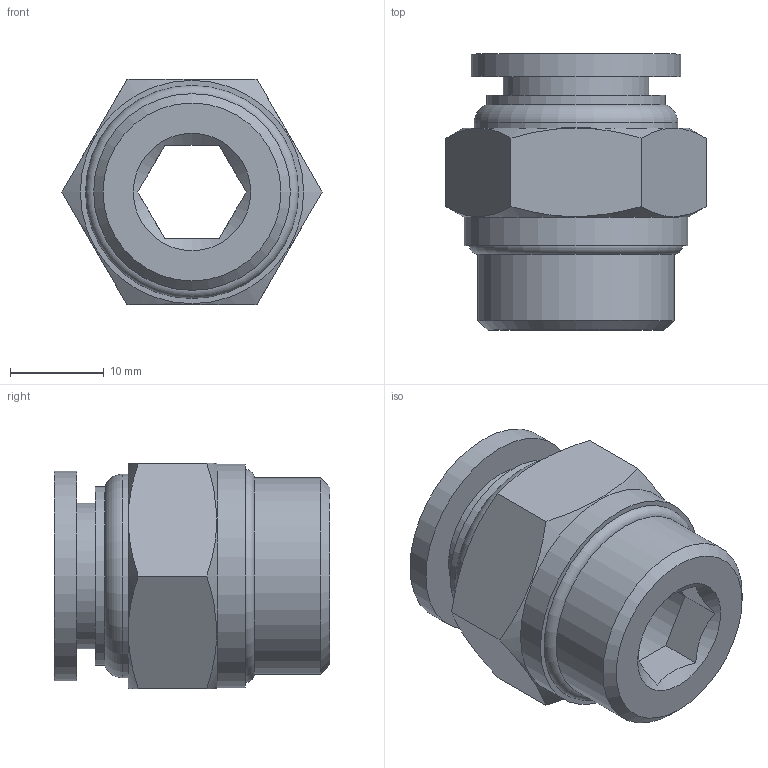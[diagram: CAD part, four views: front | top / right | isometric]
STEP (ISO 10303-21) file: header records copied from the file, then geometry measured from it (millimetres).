
FILE_DESCRIPTION(/* description */ (''),/* implementation_level */ '2;1');
FILE_NAME(/* name */ 'S:\_Tecnico\ArchivioUT\_Disegni3D ingombri\DISEGNI 3D per ingombri\RP\RP 51\RP511214.stp',/* time_stamp */ '2019-07-25T08:55:01+02:00',/* author */ ('ufficiotecnico3'),/* organization */ (''),/* preprocessor_version */ 'ST-DEVELOPER v18',/* originating_system */ 'Autodesk Inventor 2020',/* authorisation */ '');
FILE_SCHEMA (('AUTOMOTIVE_DESIGN { 1 0 10303 214 3 1 1 }'));
Length unit declared in the file: millimetre
Products named in the file (1): RP511214
Bounding box: 27.71 x 29.4 x 24 mm (x, y, z)
Volume: 7417.3 mm3; surface area: 4380.1 mm2
Topology: 1 solids, 1 shells, 38 faces, 98 edges, 67 vertices
Faces by surface type: plane 19, cone 10, cylinder 7, torus 2
Full cylindrical faces by diameter (mm): 14 x1, 15.5 x1, 19 x1, 20.955 x1, 21.7 x1, 22.3 x1, 23.8 x1
Entity records: 1196 total; most frequent: CARTESIAN_POINT 264, ORIENTED_EDGE 196, DIRECTION 185, EDGE_CURVE 98, AXIS2_PLACEMENT_3D 78, VERTEX_POINT 67, EDGE_LOOP 45, CIRCLE 39
